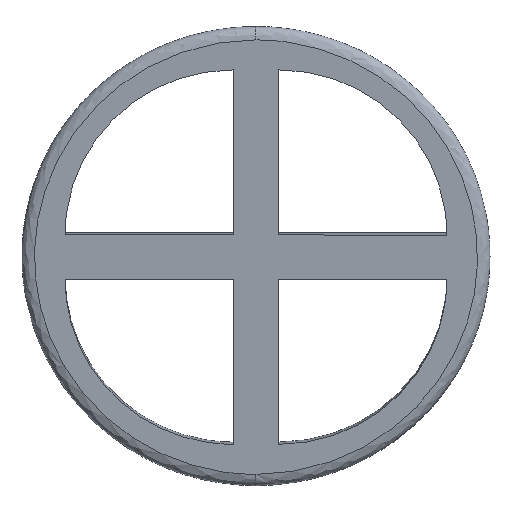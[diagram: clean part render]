
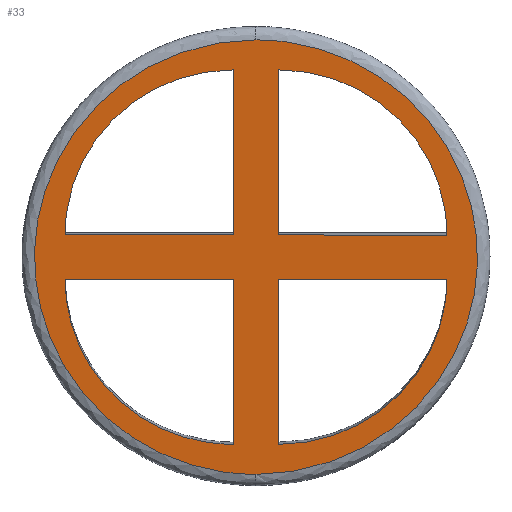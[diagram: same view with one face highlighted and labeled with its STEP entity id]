
A CAD part, front view. The second image highlights one B-rep face of the part: STEP entity #33.
In plain terms, the highlighted planar face has unit normal (-0.001, -0.994, -0.107).
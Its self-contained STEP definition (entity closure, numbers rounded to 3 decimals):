
#24=FACE_BOUND('',#70,.T.);
#25=FACE_BOUND('',#71,.T.);
#26=FACE_BOUND('',#72,.T.);
#27=FACE_BOUND('',#73,.T.);
#33=ADVANCED_FACE('',(#51,#24,#25,#26,#27),#308,.T.);
#51=FACE_OUTER_BOUND('',#69,.T.);
#69=EDGE_LOOP('',(#98,#99));
#70=EDGE_LOOP('',(#100,#101,#102));
#71=EDGE_LOOP('',(#103,#104,#105));
#72=EDGE_LOOP('',(#106,#107,#108));
#73=EDGE_LOOP('',(#109,#110,#111));
#98=ORIENTED_EDGE('',*,*,#197,.T.);
#99=ORIENTED_EDGE('',*,*,#231,.T.);
#100=ORIENTED_EDGE('',*,*,#204,.F.);
#101=ORIENTED_EDGE('',*,*,#189,.F.);
#102=ORIENTED_EDGE('',*,*,#188,.F.);
#103=ORIENTED_EDGE('',*,*,#190,.F.);
#104=ORIENTED_EDGE('',*,*,#208,.F.);
#105=ORIENTED_EDGE('',*,*,#191,.F.);
#106=ORIENTED_EDGE('',*,*,#192,.F.);
#107=ORIENTED_EDGE('',*,*,#215,.F.);
#108=ORIENTED_EDGE('',*,*,#193,.F.);
#109=ORIENTED_EDGE('',*,*,#225,.T.);
#110=ORIENTED_EDGE('',*,*,#194,.T.);
#111=ORIENTED_EDGE('',*,*,#195,.T.);
#188=EDGE_CURVE('',#279,#280,#232,.T.);
#189=EDGE_CURVE('',#280,#281,#233,.T.);
#190=EDGE_CURVE('',#283,#284,#234,.T.);
#191=EDGE_CURVE('',#284,#282,#235,.T.);
#192=EDGE_CURVE('',#286,#287,#236,.T.);
#193=EDGE_CURVE('',#287,#285,#237,.T.);
#194=EDGE_CURVE('',#288,#289,#238,.T.);
#195=EDGE_CURVE('',#289,#290,#239,.T.);
#197=EDGE_CURVE('',#303,#307,#259,.T.);
#204=EDGE_CURVE('',#281,#279,#261,.T.);
#208=EDGE_CURVE('',#282,#283,#265,.T.);
#215=EDGE_CURVE('',#285,#286,#269,.T.);
#225=EDGE_CURVE('',#290,#288,#271,.T.);
#231=EDGE_CURVE('',#307,#303,#277,.T.);
#232=B_SPLINE_CURVE_WITH_KNOTS('',1,(#1213,#1214),.UNSPECIFIED.,.F.,.F.,
(2,2),(6.283,6.783),.UNSPECIFIED.);
#233=B_SPLINE_CURVE_WITH_KNOTS('',1,(#1215,#1216),.UNSPECIFIED.,.F.,.F.,
(2,2),(6.783,7.783),.UNSPECIFIED.);
#234=B_SPLINE_CURVE_WITH_KNOTS('',1,(#1217,#1218),.UNSPECIFIED.,.F.,.F.,
(2,2),(5.142,6.142),.UNSPECIFIED.);
#235=B_SPLINE_CURVE_WITH_KNOTS('',1,(#1219,#1220),.UNSPECIFIED.,.F.,.F.,
(2,2),(6.142,6.642),.UNSPECIFIED.);
#236=B_SPLINE_CURVE_WITH_KNOTS('',1,(#1221,#1222),.UNSPECIFIED.,.F.,.F.,
(2,2),(6.142,7.142),.UNSPECIFIED.);
#237=B_SPLINE_CURVE_WITH_KNOTS('',1,(#1223,#1224),.UNSPECIFIED.,.F.,.F.,
(2,2),(7.142,7.642),.UNSPECIFIED.);
#238=B_SPLINE_CURVE_WITH_KNOTS('',1,(#1225,#1226),.UNSPECIFIED.,.F.,.F.,
(2,2),(0.,1.),.UNSPECIFIED.);
#239=B_SPLINE_CURVE_WITH_KNOTS('',1,(#1227,#1228),.UNSPECIFIED.,.F.,.F.,
(2,2),(1.,1.5),.UNSPECIFIED.);
#259=(
BOUNDED_CURVE()
B_SPLINE_CURVE(2,(#1234,#1235,#1236,#1237,#1238),.UNSPECIFIED.,.F.,.F.)
B_SPLINE_CURVE_WITH_KNOTS((3,2,3),(0.,1.571,3.142),
 .UNSPECIFIED.)
CURVE()
GEOMETRIC_REPRESENTATION_ITEM()
RATIONAL_B_SPLINE_CURVE((1.,0.707,1.,0.707,1.))
REPRESENTATION_ITEM('')
);
#261=(
BOUNDED_CURVE()
B_SPLINE_CURVE(2,(#1252,#1253,#1254),.UNSPECIFIED.,.F.,.F.)
B_SPLINE_CURVE_WITH_KNOTS((3,3),(7.783,9.354),
 .UNSPECIFIED.)
CURVE()
GEOMETRIC_REPRESENTATION_ITEM()
RATIONAL_B_SPLINE_CURVE((1.,0.707,1.))
REPRESENTATION_ITEM('')
);
#265=(
BOUNDED_CURVE()
B_SPLINE_CURVE(2,(#1262,#1263,#1264),.UNSPECIFIED.,.F.,.F.)
B_SPLINE_CURVE_WITH_KNOTS((3,3),(3.571,5.142),
 .UNSPECIFIED.)
CURVE()
GEOMETRIC_REPRESENTATION_ITEM()
RATIONAL_B_SPLINE_CURVE((1.,0.707,1.))
REPRESENTATION_ITEM('')
);
#269=(
BOUNDED_CURVE()
B_SPLINE_CURVE(2,(#1278,#1279,#1280),.UNSPECIFIED.,.F.,.F.)
B_SPLINE_CURVE_WITH_KNOTS((3,3),(4.571,6.142),
 .UNSPECIFIED.)
CURVE()
GEOMETRIC_REPRESENTATION_ITEM()
RATIONAL_B_SPLINE_CURVE((1.,0.707,1.))
REPRESENTATION_ITEM('')
);
#271=(
BOUNDED_CURVE()
B_SPLINE_CURVE(2,(#1300,#1301,#1302),.UNSPECIFIED.,.F.,.F.)
B_SPLINE_CURVE_WITH_KNOTS((3,3),(1.5,3.071),.UNSPECIFIED.)
CURVE()
GEOMETRIC_REPRESENTATION_ITEM()
RATIONAL_B_SPLINE_CURVE((1.,0.707,1.))
REPRESENTATION_ITEM('')
);
#277=(
BOUNDED_CURVE()
B_SPLINE_CURVE(2,(#1371,#1372,#1373,#1374,#1375),.UNSPECIFIED.,.F.,.F.)
B_SPLINE_CURVE_WITH_KNOTS((3,2,3),(3.142,4.712,6.283),
 .UNSPECIFIED.)
CURVE()
GEOMETRIC_REPRESENTATION_ITEM()
RATIONAL_B_SPLINE_CURVE((1.,0.707,1.,0.707,1.))
REPRESENTATION_ITEM('')
);
#279=VERTEX_POINT('',#1127);
#280=VERTEX_POINT('',#1128);
#281=VERTEX_POINT('',#1129);
#282=VERTEX_POINT('',#1130);
#283=VERTEX_POINT('',#1131);
#284=VERTEX_POINT('',#1132);
#285=VERTEX_POINT('',#1133);
#286=VERTEX_POINT('',#1134);
#287=VERTEX_POINT('',#1135);
#288=VERTEX_POINT('',#1136);
#289=VERTEX_POINT('',#1137);
#290=VERTEX_POINT('',#1138);
#303=VERTEX_POINT('',#1151);
#307=VERTEX_POINT('',#1155);
#308=PLANE('',#346);
#346=AXIS2_PLACEMENT_3D('',#552,#359,$);
#359=DIRECTION('',(-0.001,-0.994,-0.107));
#552=CARTESIAN_POINT('',(-32.317,-91.102,-23.45));
#1127=CARTESIAN_POINT('',(-3.316,-91.665,-18.555));
#1128=CARTESIAN_POINT('',(-3.316,-94.204,4.99));
#1129=CARTESIAN_POINT('',(-27.322,-94.175,4.993));
#1130=CARTESIAN_POINT('',(-3.316,-97.423,34.845));
#1131=CARTESIAN_POINT('',(-27.322,-94.855,11.304));
#1132=CARTESIAN_POINT('',(-3.316,-94.884,11.301));
#1133=CARTESIAN_POINT('',(3.119,-91.673,-18.556));
#1134=CARTESIAN_POINT('',(27.125,-94.24,4.986));
#1135=CARTESIAN_POINT('',(3.119,-94.212,4.989));
#1136=CARTESIAN_POINT('',(27.125,-94.921,11.297));
#1137=CARTESIAN_POINT('',(3.119,-94.892,11.3));
#1138=CARTESIAN_POINT('',(3.119,-97.43,34.845));
#1151=CARTESIAN_POINT('',(-0.098,-91.208,-22.835));
#1155=CARTESIAN_POINT('',(-0.098,-97.888,39.125));
#1213=CARTESIAN_POINT('',(-3.316,-91.665,-18.555));
#1214=CARTESIAN_POINT('',(-3.316,-94.204,4.99));
#1215=CARTESIAN_POINT('',(-3.316,-94.204,4.99));
#1216=CARTESIAN_POINT('',(-27.322,-94.175,4.993));
#1217=CARTESIAN_POINT('',(-27.322,-94.855,11.304));
#1218=CARTESIAN_POINT('',(-3.316,-94.884,11.301));
#1219=CARTESIAN_POINT('',(-3.316,-94.884,11.301));
#1220=CARTESIAN_POINT('',(-3.316,-97.423,34.845));
#1221=CARTESIAN_POINT('',(27.125,-94.24,4.986));
#1222=CARTESIAN_POINT('',(3.119,-94.212,4.989));
#1223=CARTESIAN_POINT('',(3.119,-94.212,4.989));
#1224=CARTESIAN_POINT('',(3.119,-91.673,-18.556));
#1225=CARTESIAN_POINT('',(27.125,-94.921,11.297));
#1226=CARTESIAN_POINT('',(3.119,-94.892,11.3));
#1227=CARTESIAN_POINT('',(3.119,-94.892,11.3));
#1228=CARTESIAN_POINT('',(3.119,-97.43,34.845));
#1234=CARTESIAN_POINT('',(-0.098,-91.208,-22.835));
#1235=CARTESIAN_POINT('',(31.489,-91.246,-22.839));
#1236=CARTESIAN_POINT('',(31.489,-94.586,8.141));
#1237=CARTESIAN_POINT('',(31.489,-97.926,39.12));
#1238=CARTESIAN_POINT('',(-0.098,-97.888,39.125));
#1252=CARTESIAN_POINT('',(-27.322,-94.175,4.993));
#1253=CARTESIAN_POINT('',(-27.322,-91.636,-18.552));
#1254=CARTESIAN_POINT('',(-3.316,-91.665,-18.555));
#1262=CARTESIAN_POINT('',(-3.316,-97.423,34.845));
#1263=CARTESIAN_POINT('',(-27.322,-97.394,34.849));
#1264=CARTESIAN_POINT('',(-27.322,-94.855,11.304));
#1278=CARTESIAN_POINT('',(3.119,-91.673,-18.556));
#1279=CARTESIAN_POINT('',(27.125,-91.702,-18.559));
#1280=CARTESIAN_POINT('',(27.125,-94.24,4.986));
#1300=CARTESIAN_POINT('',(3.119,-97.43,34.845));
#1301=CARTESIAN_POINT('',(27.125,-97.459,34.841));
#1302=CARTESIAN_POINT('',(27.125,-94.921,11.297));
#1371=CARTESIAN_POINT('',(-0.098,-97.888,39.125));
#1372=CARTESIAN_POINT('',(-31.685,-97.85,39.129));
#1373=CARTESIAN_POINT('',(-31.685,-94.51,8.149));
#1374=CARTESIAN_POINT('',(-31.685,-91.17,-22.831));
#1375=CARTESIAN_POINT('',(-0.098,-91.208,-22.835));
